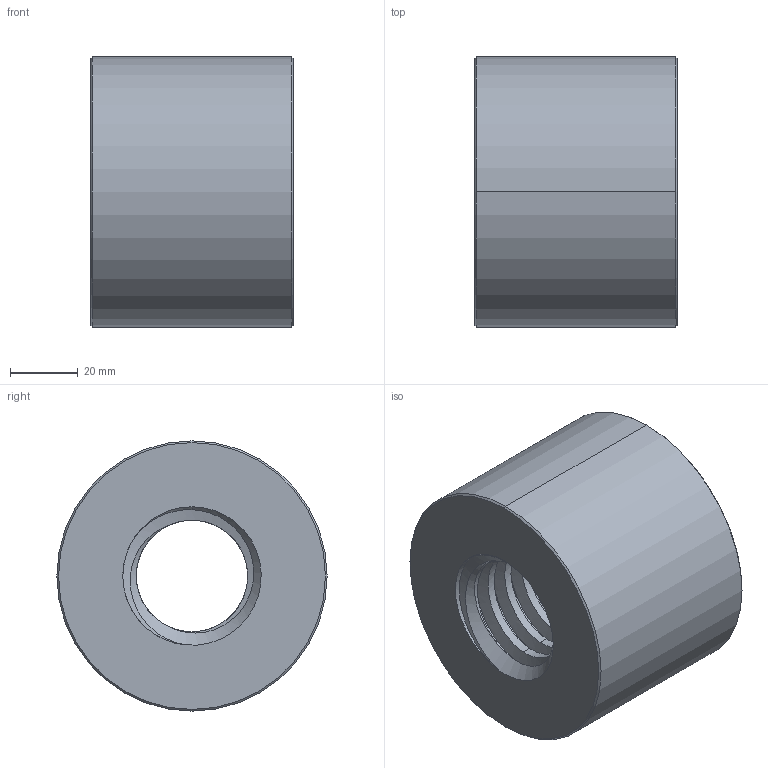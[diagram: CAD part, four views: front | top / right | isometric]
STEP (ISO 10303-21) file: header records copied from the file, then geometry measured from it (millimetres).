
FILE_DESCRIPTION((''),'2;1');
FILE_NAME('711-040-1100_PRT','2024-03-23T',('Brieden'),('ib-brieden'),'PRO/ENGINEER BY PARAMETRIC TECHNOLOGY CORPORATION, 2010160','PRO/ENGINEER BY PARAMETRIC TECHNOLOGY CORPORATION, 2010160','');
FILE_SCHEMA(('AUTOMOTIVE_DESIGN { 1 0 10303 214 1 1 1 1 }'));
Length unit declared in the file: millimetre
Products named in the file (1): 711-040-1100_PRT
Bounding box: 60 x 80 x 80 mm (x, y, z)
Volume: 236108.4 mm3; surface area: 35275.4 mm2
Topology: 1 solids, 1 shells, 35 faces, 87 edges, 54 vertices
Faces by surface type: cylinder 16, bspline 9, cone 8, plane 2
Entity records: 5253 total; most frequent: CARTESIAN_POINT 4466, ORIENTED_EDGE 174, DIRECTION 107, EDGE_CURVE 87, VERTEX_POINT 54, B_SPLINE_CURVE_WITH_KNOTS 46, AXIS2_PLACEMENT_3D 40, EDGE_LOOP 37
